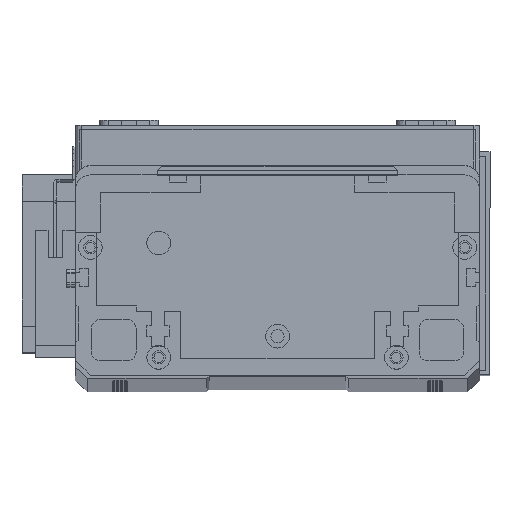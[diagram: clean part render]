
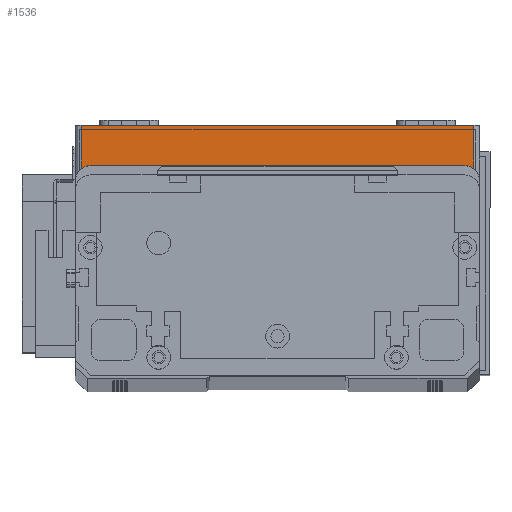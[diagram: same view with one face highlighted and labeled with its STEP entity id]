
A CAD part, top view. The second image highlights one B-rep face of the part: STEP entity #1536.
In plain terms, the highlighted planar face has unit normal (0, 0, 1) as drawn and (0, -1, 0) by its records, which use the part's own axes.
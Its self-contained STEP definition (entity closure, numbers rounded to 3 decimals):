
#495 = EDGE_CURVE ( 'NONE', #29732, #10019, #16584, .T. ) ;
#1382 = ORIENTED_EDGE ( 'NONE', *, *, #10082, .T. ) ;
#1536 = ADVANCED_FACE ( 'NONE', ( #7634 ), #28982, .F. ) ;
#1983 = ORIENTED_EDGE ( 'NONE', *, *, #8194, .F. ) ;
#2042 = CARTESIAN_POINT ( 'NONE',  ( 0., 0., 0. ) ) ;
#2690 = CARTESIAN_POINT ( 'NONE',  ( 2., 0., 0. ) ) ;
#2749 = ORIENTED_EDGE ( 'NONE', *, *, #23792, .T. ) ;
#2775 = DIRECTION ( 'NONE',  ( 0., 0., 1. ) ) ;
#2850 = DIRECTION ( 'NONE',  ( 0., 0., 1. ) ) ;
#3929 = VECTOR ( 'NONE', #13881, 1000. ) ;
#4717 = CARTESIAN_POINT ( 'NONE',  ( 2., 0., 19.5 ) ) ;
#4763 = VERTEX_POINT ( 'NONE', #16614 ) ;
#7634 = FACE_OUTER_BOUND ( 'NONE', #10515, .T. ) ;
#8194 = EDGE_CURVE ( 'NONE', #9125, #4763, #23844, .T. ) ;
#8919 = VECTOR ( 'NONE', #21396, 1000. ) ;
#9125 = VERTEX_POINT ( 'NONE', #10241 ) ;
#10019 = VERTEX_POINT ( 'NONE', #26418 ) ;
#10031 = CARTESIAN_POINT ( 'NONE',  ( 0., 0., 19.5 ) ) ;
#10082 = EDGE_CURVE ( 'NONE', #10019, #4763, #22986, .T. ) ;
#10241 = CARTESIAN_POINT ( 'NONE',  ( 2., 0., 19.5 ) ) ;
#10515 = EDGE_LOOP ( 'NONE', ( #1983, #2749, #23749, #1382 ) ) ;
#11128 = VECTOR ( 'NONE', #24326, 1000. ) ;
#13881 = DIRECTION ( 'NONE',  ( 1., 0., 0. ) ) ;
#14629 = CARTESIAN_POINT ( 'NONE',  ( 134., 0., 19.5 ) ) ;
#14689 = CARTESIAN_POINT ( 'NONE',  ( 0., 0., 19.5 ) ) ;
#16584 = LINE ( 'NONE', #2042, #3929 ) ;
#16614 = CARTESIAN_POINT ( 'NONE',  ( 134., 0., 19.5 ) ) ;
#17078 = DIRECTION ( 'NONE',  ( 0., 1., 0. ) ) ;
#21396 = DIRECTION ( 'NONE',  ( 0., 0., -1. ) ) ;
#22274 = VECTOR ( 'NONE', #2775, 1000. ) ;
#22986 = LINE ( 'NONE', #14629, #22274 ) ;
#23749 = ORIENTED_EDGE ( 'NONE', *, *, #495, .T. ) ;
#23792 = EDGE_CURVE ( 'NONE', #9125, #29732, #27964, .T. ) ;
#23844 = LINE ( 'NONE', #10031, #11128 ) ;
#24326 = DIRECTION ( 'NONE',  ( 1., 0., 0. ) ) ;
#26418 = CARTESIAN_POINT ( 'NONE',  ( 134., 0., 0. ) ) ;
#27964 = LINE ( 'NONE', #4717, #8919 ) ;
#28982 = PLANE ( 'NONE',  #29046 ) ;
#29046 = AXIS2_PLACEMENT_3D ( 'NONE', #14689, #17078, #2850 ) ;
#29732 = VERTEX_POINT ( 'NONE', #2690 ) ;
